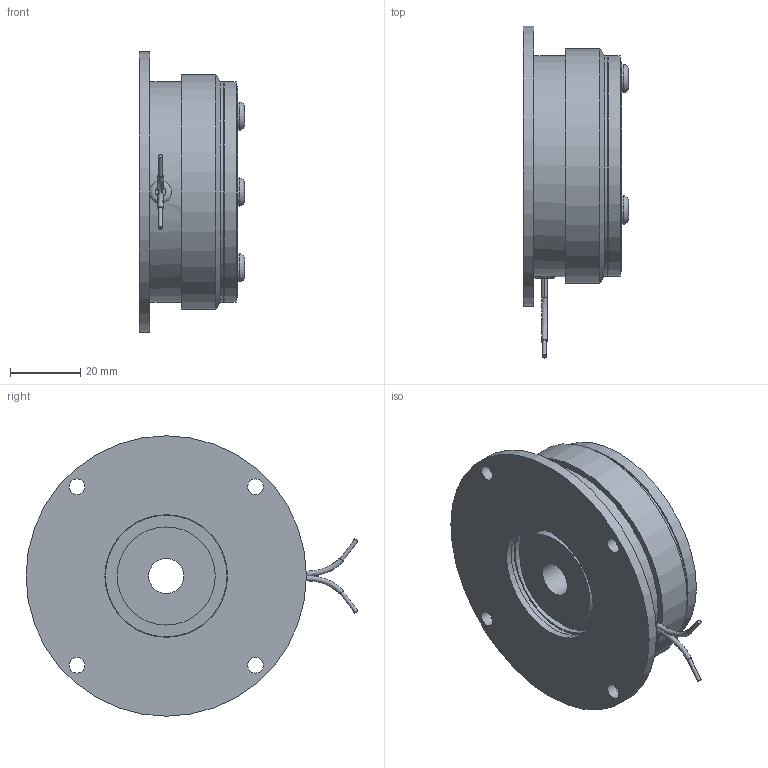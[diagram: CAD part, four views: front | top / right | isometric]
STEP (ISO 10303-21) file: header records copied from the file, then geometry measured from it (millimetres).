
FILE_DESCRIPTION(/* description */ (''),/* implementation_level */ '2;1');
FILE_NAME(/* name */ 'X:\INVENTOR\DISEGNI\08_Freni_Friz_Elettmag_Monodisco\08_20 ESAL\08_20_063_01 ESAL063\08_20_063_01 ESAL063@STEP.stp',/* time_stamp */ '2019-06-27T07:22:00+02:00',/* author */ ('stefano'),/* organization */ (''),/* preprocessor_version */ 'ST-DEVELOPER v17',/* originating_system */ 'Autodesk Inventor 2018',/* authorisation */ '');
FILE_SCHEMA (('AUTOMOTIVE_DESIGN { 1 0 10303 214 3 1 1 }'));
Length unit declared in the file: millimetre
Products named in the file (1): 08_20_063_01 ESAL063_Substitute_1
Bounding box: 30 x 94.72 x 80 mm (x, y, z)
Volume: 83029.9 mm3; surface area: 34419 mm2
Topology: 3 solids, 3 shells, 119 faces, 314 edges, 223 vertices
Faces by surface type: cylinder 66, plane 42, cone 5, torus 4, bspline 2
Full cylindrical faces by diameter (mm): 1.154 x2, 1.5 x1, 2.5 x3, 4.1 x3, 4.5 x4, 8 x3, 10 x4, 28 x2, 34.7 x1, 35 x4, 36 x1, 40 x1, 42 x1, 58 x1, 60 x1, 63 x3, 63.3 x1, 67 x1, 80 x1
Entity records: 4345 total; most frequent: CARTESIAN_POINT 865, DIRECTION 777, ORIENTED_EDGE 630, AXIS2_PLACEMENT_3D 352, EDGE_CURVE 315, CIRCLE 234, VERTEX_POINT 223, EDGE_LOOP 176
